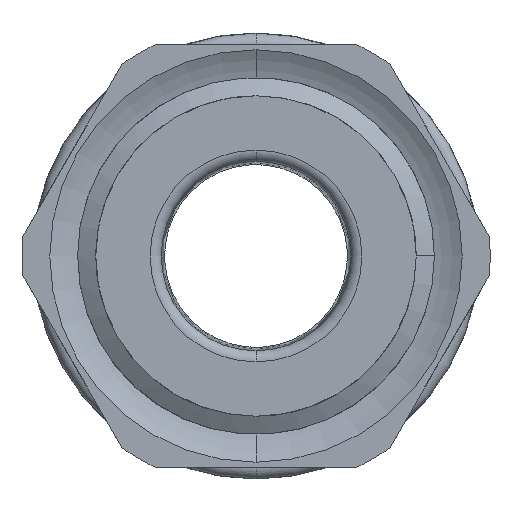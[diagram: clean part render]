
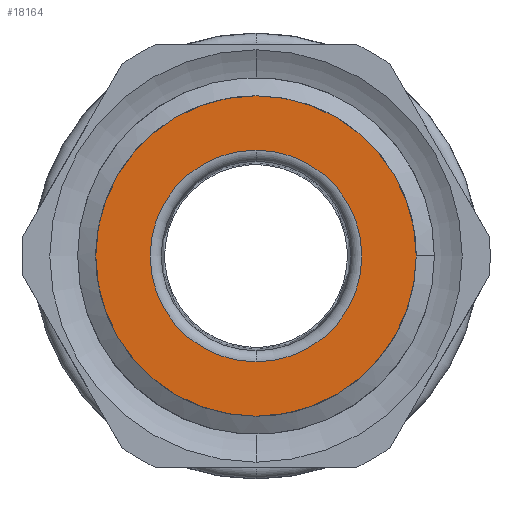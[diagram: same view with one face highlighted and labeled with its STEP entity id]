
A CAD part, front view. The second image highlights one B-rep face of the part: STEP entity #18164.
In plain terms, the highlighted planar face has unit normal (0, -1, 0).
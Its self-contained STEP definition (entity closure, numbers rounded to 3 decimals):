
#316 = DIRECTION ( 'NONE',  ( 0., 0., -1. ) ) ;
#493 = CIRCLE ( 'NONE', #3100, 7.188 ) ;
#558 = FACE_BOUND ( 'NONE', #23169, .T. ) ;
#587 = AXIS2_PLACEMENT_3D ( 'NONE', #11082, #2091, #316 ) ;
#895 = VERTEX_POINT ( 'NONE', #23525 ) ;
#1965 = CARTESIAN_POINT ( 'NONE',  ( 7.188, 0., 0. ) ) ;
#2091 = DIRECTION ( 'NONE',  ( 0., -1., 0. ) ) ;
#2255 = CARTESIAN_POINT ( 'NONE',  ( 0., 0., 0. ) ) ;
#2748 = CARTESIAN_POINT ( 'NONE',  ( 0., 0., -4.749 ) ) ;
#3100 = AXIS2_PLACEMENT_3D ( 'NONE', #2255, #22044, #14715 ) ;
#3186 = FACE_OUTER_BOUND ( 'NONE', #14559, .T. ) ;
#3392 = DIRECTION ( 'NONE',  ( 0., 0., -1. ) ) ;
#3964 = CARTESIAN_POINT ( 'NONE',  ( 0., 0., 0. ) ) ;
#3982 = CARTESIAN_POINT ( 'NONE',  ( 0., 0., -7.188 ) ) ;
#4017 = CARTESIAN_POINT ( 'NONE',  ( 0., 0., 4.749 ) ) ;
#5659 = PLANE ( 'NONE',  #587 ) ;
#5717 = DIRECTION ( 'NONE',  ( 0., -1., 0. ) ) ;
#7194 = AXIS2_PLACEMENT_3D ( 'NONE', #16425, #16354, #3392 ) ;
#7226 = CIRCLE ( 'NONE', #14407, 7.188 ) ;
#7277 = DIRECTION ( 'NONE',  ( 0., -1., 0. ) ) ;
#8582 = ORIENTED_EDGE ( 'NONE', *, *, #14815, .T. ) ;
#9368 = CARTESIAN_POINT ( 'NONE',  ( 0., 0., 0. ) ) ;
#9704 = VERTEX_POINT ( 'NONE', #3982 ) ;
#9990 = VERTEX_POINT ( 'NONE', #1965 ) ;
#11082 = CARTESIAN_POINT ( 'NONE',  ( 4.749, 0., 0. ) ) ;
#11214 = VERTEX_POINT ( 'NONE', #4017 ) ;
#11771 = CIRCLE ( 'NONE', #11977, 4.749 ) ;
#11925 = EDGE_CURVE ( 'NONE', #14288, #11214, #11771, .T. ) ;
#11977 = AXIS2_PLACEMENT_3D ( 'NONE', #3964, #5717, #15012 ) ;
#14288 = VERTEX_POINT ( 'NONE', #2748 ) ;
#14326 = ORIENTED_EDGE ( 'NONE', *, *, #21000, .F. ) ;
#14407 = AXIS2_PLACEMENT_3D ( 'NONE', #19998, #7277, #22051 ) ;
#14559 = EDGE_LOOP ( 'NONE', ( #8582, #21603, #14798 ) ) ;
#14715 = DIRECTION ( 'NONE',  ( 0., 0., -1. ) ) ;
#14798 = ORIENTED_EDGE ( 'NONE', *, *, #20567, .T. ) ;
#14815 = EDGE_CURVE ( 'NONE', #9990, #895, #7226, .T. ) ;
#15012 = DIRECTION ( 'NONE',  ( 0., 0., -1. ) ) ;
#15891 = CIRCLE ( 'NONE', #19368, 4.749 ) ;
#16354 = DIRECTION ( 'NONE',  ( 0., -1., 0. ) ) ;
#16425 = CARTESIAN_POINT ( 'NONE',  ( 0., 0., 0. ) ) ;
#16530 = DIRECTION ( 'NONE',  ( 0., -1., 0. ) ) ;
#16615 = DIRECTION ( 'NONE',  ( 0., 0., -1. ) ) ;
#17400 = ORIENTED_EDGE ( 'NONE', *, *, #11925, .F. ) ;
#18164 = ADVANCED_FACE ( 'NONE', ( #3186, #558 ), #5659, .T. ) ;
#18431 = CIRCLE ( 'NONE', #7194, 7.188 ) ;
#19368 = AXIS2_PLACEMENT_3D ( 'NONE', #9368, #16530, #16615 ) ;
#19998 = CARTESIAN_POINT ( 'NONE',  ( 0., 0., 0. ) ) ;
#20567 = EDGE_CURVE ( 'NONE', #9704, #9990, #18431, .T. ) ;
#20712 = EDGE_CURVE ( 'NONE', #895, #9704, #493, .T. ) ;
#21000 = EDGE_CURVE ( 'NONE', #11214, #14288, #15891, .T. ) ;
#21603 = ORIENTED_EDGE ( 'NONE', *, *, #20712, .T. ) ;
#22044 = DIRECTION ( 'NONE',  ( 0., -1., 0. ) ) ;
#22051 = DIRECTION ( 'NONE',  ( 0., 0., -1. ) ) ;
#23169 = EDGE_LOOP ( 'NONE', ( #17400, #14326 ) ) ;
#23525 = CARTESIAN_POINT ( 'NONE',  ( 0., 0., 7.188 ) ) ;
